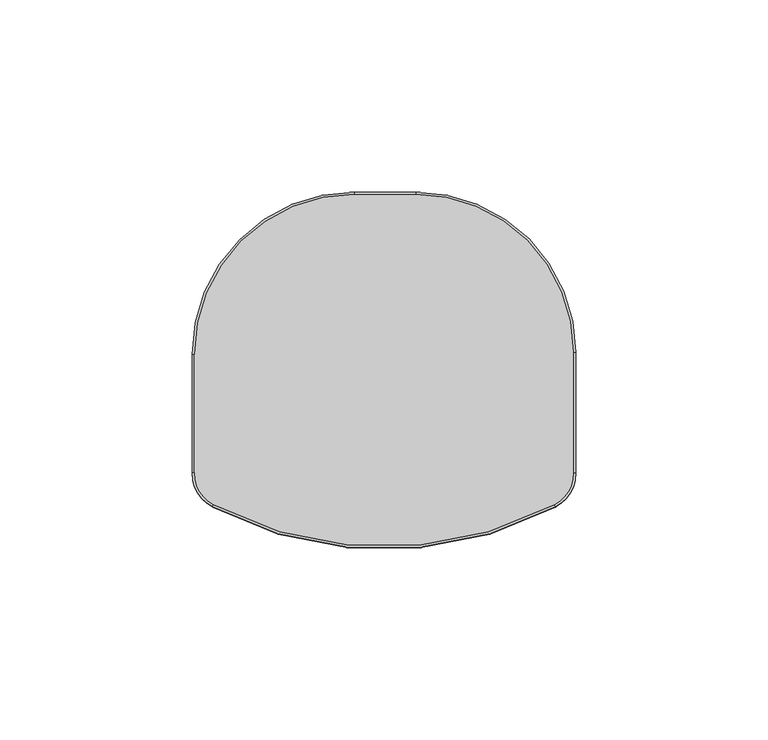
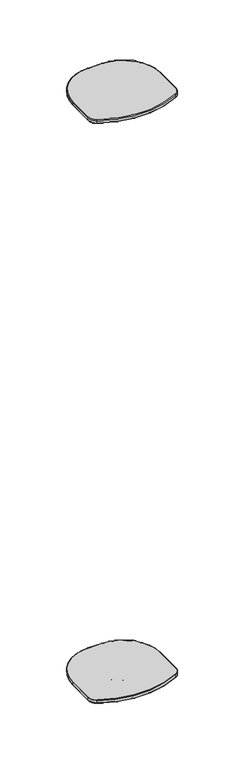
"""IFC4 building model written with IfcOpenShell, lengths in millimetres: proxy geometry, TS-C 30-700_T-EN54 : TS-C 30-700/T-EN54."""

import ifcopenshell
import ifcopenshell.guid

model = None  # the IFC model being written
_history = None  # IfcOwnerHistory: only IFC2X3 demands one
_inside = {}  # id of a spatial element -> (the spatial element, [elements in it])
_under = {}  # id of a project, library or spatial element -> (it, [spatial elements below it])
_declared = {}  # id of a project -> (the project, [libraries it declares])
_typed = {}  # id of a type object -> (the type object, [elements of that type])
_made_of = {}  # id of a material, layer set ... -> (it, [elements and type objects made of it])


def new_model(schema):
    """Start an empty IFC model of exactly this schema.

    Asked for "IFC4X3", IfcOpenShell would pick the latest addendum, in which some entities
    have other attributes; the version numbers below select the first issue.
    IFC2X3 requires an IfcOwnerHistory on every rooted entity: one is made here for all.
    """
    global model, _history
    if schema == "IFC4X3":
        model = ifcopenshell.file(schema_version=(4, 3, 0, 0))
    else:
        model = ifcopenshell.file(schema=schema)
    _inside.clear()
    _under.clear()
    _declared.clear()
    _typed.clear()
    _made_of.clear()
    _history = None
    if model.schema == "IFC2X3":
        org = make("IfcOrganization", Name="unknown")
        user = make(
            "IfcPersonAndOrganization",
            ThePerson=make("IfcPerson", FamilyName="unknown"),
            TheOrganization=org,
        )
        app = make(
            "IfcApplication",
            ApplicationDeveloper=org,
            Version="unknown",
            ApplicationFullName="unknown",
            ApplicationIdentifier="unknown",
        )
        _history = make(
            "IfcOwnerHistory",
            OwningUser=user,
            OwningApplication=app,
            ChangeAction="ADDED",
            CreationDate=0,
        )
    return model


def make(cls, **values):
    """One entity of the class cls with the attributes given. An attribute that is None is left unset."""
    return model.create_entity(
        cls, **{name: value for name, value in values.items() if value is not None}
    )


def rooted(cls, **values):
    """An entity with a GlobalId (a new one), such as an element, a storey or a relation."""
    return make(cls, GlobalId=ifcopenshell.guid.new(), OwnerHistory=_history, **values)


def si_unit(unit_type, name, prefix=None):
    """IfcSIUnit, for example si_unit("LENGTHUNIT", "METRE", prefix="MILLI")."""
    return make("IfcSIUnit", UnitType=unit_type, Prefix=prefix, Name=name)


def assignment(units):
    """IfcUnitAssignment: the units of a project."""
    return None if units is None else make("IfcUnitAssignment", Units=units)


def point(xyz):
    """IfcCartesianPoint."""
    return None if xyz is None else make("IfcCartesianPoint", Coordinates=xyz)


def direction(xyz):
    """IfcDirection."""
    return None if xyz is None else make("IfcDirection", DirectionRatios=xyz)


def frame(location, z_axis=None, x_axis=None):
    """IfcAxis2Placement3D, a coordinate frame: its origin and axes. An axis left out is left unset."""
    return make(
        "IfcAxis2Placement3D",
        Location=point(location),
        Axis=direction(z_axis),
        RefDirection=direction(x_axis),
    )


def origin():
    """The frame at (0, 0, 0) with its axes left unset."""
    return frame((0.0, 0.0, 0.0))


def place(relative_to, where):
    """IfcLocalPlacement: puts the frame where relative to a parent placement (None: the world)."""
    return make(
        "IfcLocalPlacement", PlacementRelTo=relative_to, RelativePlacement=where
    )


def context(
    kind, dimensions, precision=None, world=None, true_north=None, identifier=None
):
    """IfcGeometricRepresentationContext, for example the 3D "Model" context."""
    return make(
        "IfcGeometricRepresentationContext",
        ContextIdentifier=identifier,
        ContextType=kind,
        CoordinateSpaceDimension=dimensions,
        Precision=precision,
        WorldCoordinateSystem=world,
        TrueNorth=true_north,
    )


def project(units=None, contexts=None):
    """IfcProject with its units and contexts."""
    return rooted(
        "IfcProject",
        Name="project",
        RepresentationContexts=contexts,
        UnitsInContext=assignment(units),
    )


def spatial(cls, under=None, at=None, **own):
    """A site, building, storey or space (cls), placed at a placement, below another one or the project."""
    s = rooted(cls, ObjectPlacement=at, **own)
    if under is not None:
        _under.setdefault(under.id(), (under, []))[1].append(s)
    return s


def polyline(points):
    """IfcPolyline through the points."""
    return make("IfcPolyline", Points=[point(p) for p in points])


def circle_curve(where, radius):
    """IfcCircle in the frame where."""
    return make("IfcCircle", Position=where, Radius=radius)


def ellipse_curve(where, semi_axis1, semi_axis2):
    """IfcEllipse in the frame where."""
    return make(
        "IfcEllipse", Position=where, SemiAxis1=semi_axis1, SemiAxis2=semi_axis2
    )


def trimmed(basis, trim1, trim2, sense, master):
    """IfcTrimmedCurve: the piece of a basis curve between two trims."""
    return make(
        "IfcTrimmedCurve",
        BasisCurve=basis,
        Trim1=trim1,
        Trim2=trim2,
        SenseAgreement=sense,
        MasterRepresentation=master,
    )


def shape(context_of_items, identifier, shape_type, items):
    """IfcShapeRepresentation: the items that make up one representation, for example the "Body"."""
    return make(
        "IfcShapeRepresentation",
        ContextOfItems=context_of_items,
        RepresentationIdentifier=identifier,
        RepresentationType=shape_type,
        Items=items,
    )


def source(mapping_origin, context_of_items, identifier, shape_type, items):
    """IfcRepresentationMap: a shape defined once, which mapped items show again and again."""
    return make(
        "IfcRepresentationMap",
        MappingOrigin=mapping_origin,
        MappedRepresentation=shape(context_of_items, identifier, shape_type, items),
    )


def transform(
    local_origin,
    x_axis=None,
    y_axis=None,
    z_axis=None,
    scale=None,
    scale2=None,
    scale3=None,
    uniform=True,
):
    """IfcCartesianTransformationOperator3D, or its non-uniform kind. x_axis, y_axis, z_axis: its Axis1, 2, 3."""
    if uniform:
        return make(
            "IfcCartesianTransformationOperator3D",
            Axis1=direction(x_axis),
            Axis2=direction(y_axis),
            LocalOrigin=point(local_origin),
            Scale=scale,
            Axis3=direction(z_axis),
        )
    return make(
        "IfcCartesianTransformationOperator3DnonUniform",
        Axis1=direction(x_axis),
        Axis2=direction(y_axis),
        LocalOrigin=point(local_origin),
        Scale=scale,
        Axis3=direction(z_axis),
        Scale2=scale2,
        Scale3=scale3,
    )


def mapped(mapping_source, mapping_target):
    """IfcMappedItem: shows the shape of a source again, moved by a transform."""
    return make(
        "IfcMappedItem", MappingSource=mapping_source, MappingTarget=mapping_target
    )


def made_of(thing, what):
    """Note that an element or type object is made of a material, layer set ...; save() writes the relation."""
    if what is not None:
        _made_of.setdefault(what.id(), (what, []))[1].append(thing)
    return thing


def element(
    cls,
    number,
    at=None,
    inside=None,
    cuts=None,
    type_object=None,
    material=None,
    context=None,
    identifier="Body",
    shape_type=None,
    held_by="IfcProductDefinitionShape",
    body=None,
    shapes=None,
    **own,
):
    """One element of the class cls, such as IfcWall. Its Tag is "e" and its number.

    at: its placement. inside: the storey or other place that contains it. cuts: it is an
    opening in that element (IfcRelVoidsElement). A single representation is given by context,
    identifier, shape_type and body (its items); several are given by shapes. held_by: the class
    of the entity that holds the representations. save() writes the other relations.
    """
    e = rooted(cls, Tag="e%d" % number, ObjectPlacement=at, **own)
    if body is not None:
        shapes = [shape(context, identifier, shape_type, body)]
    if shapes is not None:
        e.Representation = make(held_by, Representations=shapes)
    if inside is not None:
        _inside.setdefault(inside.id(), (inside, []))[1].append(e)
    if cuts is not None:
        rooted(
            "IfcRelVoidsElement", RelatingBuildingElement=cuts, RelatedOpeningElement=e
        )
    if type_object is not None:
        _typed.setdefault(type_object.id(), (type_object, []))[1].append(e)
    return made_of(e, material)


def aggregate(whole, parts):
    """IfcRelAggregates: a whole, such as a stair, and the parts it consists of."""
    return rooted("IfcRelAggregates", RelatingObject=whole, RelatedObjects=parts)


def save(model, path):
    """Write the relations noted so far, then the file.

    IfcRelAggregates (storeys below a building ...), IfcRelContainedInSpatialStructure (elements
    in a storey), IfcRelDefinesByType, IfcRelAssociatesMaterial and IfcRelDeclares: one each for
    every whole, place, type object, material and project.
    """
    for whole, parts in _under.values():
        aggregate(whole, parts)
    for where, things in _inside.values():
        rooted(
            "IfcRelContainedInSpatialStructure",
            RelatedElements=things,
            RelatingStructure=where,
        )
    for kind, things in _typed.values():
        rooted("IfcRelDefinesByType", RelatedObjects=things, RelatingType=kind)
    for what, things in _made_of.values():
        rooted("IfcRelAssociatesMaterial", RelatedObjects=things, RelatingMaterial=what)
    for by, libraries in _declared.values():
        rooted("IfcRelDeclares", RelatingContext=by, RelatedDefinitions=libraries)
    model.write(path)


def plane_surface(at):
    """IfcPlane: the flat surface through the origin of the frame at, square to its z axis."""
    return make("IfcPlane", Position=at)


def cylinder_surface(at, radius):
    """IfcCylindricalSurface: all points at the distance radius from the z axis of the frame at."""
    return make("IfcCylindricalSurface", Position=at, Radius=radius)


def revolved_surface(curve, axis_point, axis_direction):
    """IfcSurfaceOfRevolution: the curve turned about the line through axis_point along axis_direction."""
    return make(
        "IfcSurfaceOfRevolution",
        SweptCurve=make("IfcArbitraryOpenProfileDef", ProfileType="CURVE", Curve=curve),
        AxisPosition=make("IfcAxis1Placement", Location=point(axis_point), Axis=direction(axis_direction)),
    )


def advanced_brep(points, edges, surfaces, faces):
    """IfcAdvancedBrep: a solid bounded by faces that lie on surfaces and meet in shared edges.

    An edge is (start, end): straight between two places in points (the first is 0);
    or (start, end, curve); or (start, end, curve, False) where it runs against its curve.
    A face is (place in surfaces, loops), or (place, loops, False) where it looks against
    its surface's normal. A loop lists edges by number (the first is 1), with a minus sign
    where the edge is run from its end to its start. The first loop is the outer one.
    """
    corners = [point(p) for p in points]
    vertices = [make("IfcVertexPoint", VertexGeometry=c) for c in corners]
    made = []
    for start, end, *more in edges:
        made.append(
            make(
                "IfcEdgeCurve",
                EdgeStart=vertices[start],
                EdgeEnd=vertices[end],
                EdgeGeometry=more[0] if more else make("IfcPolyline", Points=[corners[start], corners[end]]),
                SameSense=more[1] if len(more) > 1 else True,
            )
        )
    hull = []
    for where, loops, *sense in faces:
        bounds = []
        for j, loop in enumerate(loops):
            ring = [make("IfcOrientedEdge", EdgeElement=made[abs(k) - 1], Orientation=k > 0) for k in loop]
            bounds.append(
                make(
                    "IfcFaceOuterBound" if j == 0 else "IfcFaceBound",
                    Bound=make("IfcEdgeLoop", EdgeList=ring),
                    Orientation=True,
                )
            )
        hull.append(make("IfcAdvancedFace", Bounds=bounds, FaceSurface=surfaces[where], SameSense=sense[0] if sense else True))
    return make("IfcAdvancedBrep", Outer=make("IfcClosedShell", CfsFaces=hull))


def communication_devices_d7f1a59e(model_context):
    return source(origin(), model_context, "Body", "AdvancedBrep", [
        advanced_brep(
        [(-7.7626041, 1.5, 8.4861854), (-49.99971, -40.7371059, 8.4861854), (-49.99971, -40.7371059, 11.4421964), (-7.7626041, 1.5, 11.4421964), (8.2345894, 1.5, 11.4421964), (8.2345894, 1.5, 8.4861854), (49.99971, -40.2651206, 11.4421964), (49.99971, -40.2651206, 8.4861854), (49.99971, -71.6195776, 11.4421964), (49.99971, -71.6195776, 8.4861854), (44.6610542, -80.4667167, 11.4421964), (44.6610542, -80.4667167, 8.4861854), (-44.6609866, -80.4670578, 11.4421964), (-44.6609866, -80.4670578, 8.4861854), (-49.99971, -71.6198831, 11.4421964), (-49.99971, -71.6198831, 8.4861854), (-49.4919104, -40.7371059, 11.949996), (-49.4919104, -71.6198831, 11.949996), (-44.4242872, -80.0177986, 11.949996), (44.4243513, -80.0174593, 11.949996), (49.4919104, -71.6195776, 11.949996), (49.4919104, -40.2651206, 11.949996), (8.2345894, 0.9922004, 11.949996), (-7.7626041, 0.9922004, 11.949996), (44.4111178, -79.9923424, 7.949996), (-44.4110539, -79.9926816, 7.949996), (-49.4635206, -71.6198831, 7.949996), (-49.4635206, -40.7371059, 7.949996), (-7.7626041, 0.9638106, 7.949996), (8.2345894, 0.9638106, 7.949996), (49.4635206, -40.2651206, 7.949996), (49.4635206, -71.6195776, 7.949996)],
        [
            (0, 1, circle_curve(frame((-7.7626041, -40.7371059, 8.4861854), z_axis=(0.0, 0.0, 1.0), x_axis=(-1.0, 0.0, 0.0)), 42.2371059)),
            (1, 2),
            (2, 3, circle_curve(frame((-7.7626041, -40.7371059, 11.4421964), z_axis=(0.0, 0.0, -1.0), x_axis=(-1.0, 0.0, 0.0)), 42.2371059)),
            (3, 0),
            (3, 4),
            (4, 5),
            (5, 0),
            (4, 6, circle_curve(frame((8.2345894, -40.2651206, 11.4421964), z_axis=(0.0, 0.0, -1.0), x_axis=(0.0, 1.0, 0.0)), 41.7651206)),
            (6, 7),
            (7, 5, circle_curve(frame((8.2345894, -40.2651206, 8.4861854), z_axis=(0.0, 0.0, 1.0), x_axis=(0.0, 1.0, 0.0)), 41.7651206)),
            (6, 8),
            (8, 9),
            (9, 7),
            (8, 10, circle_curve(frame((39.99971, -71.6195776, 11.4421964), z_axis=(0.0, 0.0, -1.0), x_axis=(1.0, 0.0, 0.0)), 10.0)),
            (10, 11),
            (11, 9, circle_curve(frame((39.99971, -71.6195776, 8.4861854), z_axis=(0.0, 0.0, 1.0), x_axis=(1.0, 0.0, 0.0)), 10.0)),
            (10, 12, circle_curve(frame((-0.0002899, 4.2996317, 11.4421964), z_axis=(0.0, 0.0, -1.0), x_axis=(0.46613441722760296, -0.8847139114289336, 0.0)), 95.8121573)),
            (12, 13),
            (13, 11, circle_curve(frame((-0.0002899, 4.2996317, 8.4861854), z_axis=(0.0, 0.0, 1.0), x_axis=(0.46613441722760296, -0.8847139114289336, 0.0)), 95.8121573)),
            (12, 14, circle_curve(frame((-39.99971, -71.6198831, 11.4421964), z_axis=(0.0, 0.0, -1.0), x_axis=(-0.4661276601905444, -0.8847174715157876, 0.0)), 10.0)),
            (14, 15),
            (15, 13, circle_curve(frame((-39.99971, -71.6198831, 8.4861854), z_axis=(0.0, 0.0, 1.0), x_axis=(-0.4661276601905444, -0.8847174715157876, 0.0)), 10.0)),
            (16, 17),
            (17, 18, circle_curve(frame((-39.99971, -71.6198831, 11.949996), z_axis=(0.0, 0.0, 1.0), x_axis=(-0.4661276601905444, -0.8847174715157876, 0.0)), 9.4922004)),
            (18, 19, circle_curve(frame((-0.0002899, 4.2996317, 11.949996), z_axis=(0.0, 0.0, 1.0), x_axis=(0.46613441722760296, -0.8847139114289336, 0.0)), 95.3043576)),
            (19, 20, circle_curve(frame((39.99971, -71.6195776, 11.949996), z_axis=(0.0, 0.0, 1.0), x_axis=(1.0, 0.0, 0.0)), 9.4922004)),
            (20, 21),
            (21, 22, circle_curve(frame((8.2345894, -40.2651206, 11.949996), z_axis=(0.0, 0.0, 1.0), x_axis=(0.0, 1.0, 0.0)), 41.257321)),
            (22, 23),
            (23, 16, circle_curve(frame((-7.7626041, -40.7371059, 11.949996), z_axis=(0.0, 0.0, 1.0), x_axis=(-1.0, 0.0, 0.0)), 41.7293063)),
            (1, 15),
            (14, 2),
            (24, 25, circle_curve(frame((-0.0002899, 4.2996317, 7.949996), z_axis=(0.0, 0.0, -1.0), x_axis=(0.46613441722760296, -0.8847139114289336, 0.0)), 95.2759678)),
            (25, 26, circle_curve(frame((-39.99971, -71.6198831, 7.949996), z_axis=(0.0, 0.0, -1.0), x_axis=(-0.4661276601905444, -0.8847174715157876, 0.0)), 9.4638106)),
            (26, 27),
            (27, 28, circle_curve(frame((-7.7626041, -40.7371059, 7.949996), z_axis=(0.0, 0.0, -1.0), x_axis=(-1.0, 0.0, 0.0)), 41.7009165)),
            (28, 29),
            (29, 30, circle_curve(frame((8.2345894, -40.2651206, 7.949996), z_axis=(0.0, 0.0, -1.0), x_axis=(0.0, 1.0, 0.0)), 41.2289312)),
            (30, 31),
            (31, 24, circle_curve(frame((39.99971, -71.6195776, 7.949996), z_axis=(0.0, 0.0, -1.0), x_axis=(1.0, 0.0, 0.0)), 9.4638106)),
            (2, 16, circle_curve(frame((-49.4919104, -40.7371059, 11.4421964), z_axis=(0.0, 1.0, 0.0), x_axis=(-1.0, 0.0, 0.0)), 0.5077996)),
            (23, 3, circle_curve(frame((-7.7626041, 0.9922004, 11.4421964), z_axis=(-1.0, 0.0, 0.0), x_axis=(0.0, 1.0, 0.0)), 0.5077996)),
            (0, 28, circle_curve(frame((-7.7626041, 0.9638106, 8.4861854), z_axis=(-1.0, 0.0, 0.0), x_axis=(0.0, 1.0, 0.0)), 0.5361894)),
            (27, 1, circle_curve(frame((-49.4635206, -40.7371059, 8.4861854), z_axis=(0.0, 1.0, 0.0), x_axis=(-1.0, 0.0, 0.0)), 0.5361894)),
            (22, 4, circle_curve(frame((8.2345894, 0.9922004, 11.4421964), z_axis=(-1.0, 0.0, 0.0), x_axis=(0.0, 1.0, 0.0)), 0.5077996)),
            (5, 29, circle_curve(frame((8.2345894, 0.9638106, 8.4861854), z_axis=(-1.0, 0.0, 0.0), x_axis=(0.0, 1.0, 0.0)), 0.5361894)),
            (21, 6, circle_curve(frame((49.4919104, -40.2651206, 11.4421964), z_axis=(0.0, 1.0, 0.0), x_axis=(1.0, 0.0, 0.0)), 0.5077996)),
            (7, 30, circle_curve(frame((49.4635206, -40.2651206, 8.4861854), z_axis=(0.0, 1.0, 0.0), x_axis=(1.0, 0.0, 0.0)), 0.5361894)),
            (20, 8, circle_curve(frame((49.4919104, -71.6195776, 11.4421964), z_axis=(0.0, 1.0, 0.0), x_axis=(1.0, 0.0, 0.0)), 0.5077996)),
            (9, 31, circle_curve(frame((49.4635206, -71.6195776, 8.4861854), z_axis=(0.0, 1.0, 0.0), x_axis=(1.0, 0.0, 0.0)), 0.5361894)),
            (19, 10, circle_curve(frame((44.4243513, -80.0174593, 11.4421964), z_axis=(0.884713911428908, 0.4661344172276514, 0.0), x_axis=(0.4661344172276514, -0.884713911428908, 0.0)), 0.5077996)),
            (11, 24, circle_curve(frame((44.4111178, -79.9923424, 8.4861854), z_axis=(0.8847139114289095, 0.4661344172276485, 0.0), x_axis=(0.4661344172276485, -0.8847139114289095, 0.0)), 0.5361894)),
            (18, 12, circle_curve(frame((-44.4242872, -80.0177986, 11.4421964), z_axis=(0.8847174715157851, -0.466127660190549, 0.0), x_axis=(-0.466127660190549, -0.8847174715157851, 0.0)), 0.5077996)),
            (13, 25, circle_curve(frame((-44.4110539, -79.9926816, 8.4861854), z_axis=(0.8847174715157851, -0.466127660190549, 0.0), x_axis=(-0.466127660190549, -0.8847174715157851, 0.0)), 0.5361894)),
            (17, 14, circle_curve(frame((-49.4919104, -71.6198831, 11.4421964), z_axis=(0.0, -1.0, 0.0), x_axis=(-1.0, 0.0, 0.0)), 0.5077996)),
            (15, 26, circle_curve(frame((-49.4635206, -71.6198831, 8.4861854), z_axis=(0.0, -1.0, 0.0), x_axis=(-1.0, 0.0, 0.0)), 0.5361894)),
        ],
        [
            cylinder_surface(frame((-7.7626041, -40.7371059, 0.0), z_axis=(0.0, 0.0, -1.0), x_axis=(-1.0, 0.0, 0.0)), 42.2371059),
            plane_surface(frame((-7.7626041, 1.5, 11.4421964), z_axis=(0.0, 1.0, 0.0), x_axis=(1.0, 0.0, 0.0))),
            cylinder_surface(frame((8.2345894, -40.2651206, 0.0), z_axis=(0.0, 0.0, -1.0), x_axis=(0.0, 1.0, 0.0)), 41.7651206),
            plane_surface(frame((49.99971, -40.2651206, 11.4421964), z_axis=(1.0, 0.0, 0.0), x_axis=(0.0, -1.0, 0.0))),
            cylinder_surface(frame((39.99971, -71.6195776, 0.0), z_axis=(0.0, 0.0, -1.0), x_axis=(1.0, 0.0, 0.0)), 10.0),
            cylinder_surface(frame((-0.0002899, 4.2996317, 0.0), z_axis=(0.0, 0.0, -1.0), x_axis=(0.46613441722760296, -0.8847139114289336, 0.0)), 95.8121573),
            cylinder_surface(frame((-39.99971, -71.6198831, 0.0), z_axis=(0.0, 0.0, -1.0), x_axis=(-0.4661276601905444, -0.8847174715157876, 0.0)), 10.0),
            plane_surface(frame((-48.0983774, -71.6198831, 11.949996), z_axis=(0.0, 0.0, 1.0), x_axis=(0.0, 1.0, 0.0))),
            plane_surface(frame((-49.99971, -71.6198831, 11.4421964), z_axis=(-1.0, 0.0, 0.0), x_axis=(0.0, 1.0, 0.0))),
            plane_surface(frame((-49.4635206, -71.6198831, 7.949996), z_axis=(0.0, 0.0, -1.0), x_axis=(0.0, 1.0, 0.0))),
            revolved_surface(trimmed(ellipse_curve(frame((-49.4919104, -40.7371059, 11.4421964), z_axis=(0.0, -1.0, 0.0), x_axis=(-1.0, 0.0, 0.0)), 0.5077996, 0.5077996), [point((-49.4919104, -40.7371059, 11.949996))], [point((-49.99971, -40.7371059, 11.4421964))], True, "CARTESIAN"), (-7.7626041, -40.7371059, 0.0), (0.0, 0.0, -1.0)),
            revolved_surface(trimmed(ellipse_curve(frame((-49.4635206, -40.7371059, 8.4861854), z_axis=(0.0, -1.0, 0.0), x_axis=(-1.0, 0.0, 0.0)), 0.5361894, 0.5361894), [point((-49.99971, -40.7371059, 8.4861854))], [point((-49.4635206, -40.7371059, 7.949996))], True, "CARTESIAN"), (-7.7626041, -40.7371059, 0.0), (0.0, 0.0, -1.0)),
            cylinder_surface(frame((-7.7626041, 0.9922004, 11.4421964), z_axis=(-1.0, 0.0, 0.0), x_axis=(0.0, 1.0, 0.0)), 0.5077996),
            cylinder_surface(frame((-7.7626041, 0.9638106, 8.4861854), z_axis=(-1.0, 0.0, 0.0), x_axis=(0.0, 1.0, 0.0)), 0.5361894),
            revolved_surface(trimmed(ellipse_curve(frame((8.2345894, 0.9922004, 11.4421964), z_axis=(-1.0, 0.0, 0.0), x_axis=(0.0, 1.0, 0.0)), 0.5077996, 0.5077996), [point((8.2345894, 0.9922004, 11.949996))], [point((8.2345894, 1.5, 11.4421964))], True, "CARTESIAN"), (8.2345894, -40.2651206, 0.0), (0.0, 0.0, -1.0)),
            revolved_surface(trimmed(ellipse_curve(frame((8.2345894, 0.9638106, 8.4861854), z_axis=(-1.0, 0.0, 0.0), x_axis=(0.0, 1.0, 0.0)), 0.5361894, 0.5361894), [point((8.2345894, 1.5, 8.4861854))], [point((8.2345894, 0.9638106, 7.949996))], True, "CARTESIAN"), (8.2345894, -40.2651206, 0.0), (0.0, 0.0, -1.0)),
            cylinder_surface(frame((49.4919104, -40.2651206, 11.4421964), z_axis=(0.0, 1.0, 0.0), x_axis=(1.0, 0.0, 0.0)), 0.5077996),
            cylinder_surface(frame((49.4635206, -40.2651206, 8.4861854), z_axis=(0.0, 1.0, 0.0), x_axis=(1.0, 0.0, 0.0)), 0.5361894),
            revolved_surface(trimmed(ellipse_curve(frame((49.4919104, -71.6195776, 11.4421964), z_axis=(0.0, 1.0, 0.0), x_axis=(1.0, 0.0, 0.0)), 0.5077996, 0.5077996), [point((49.4919104, -71.6195776, 11.949996))], [point((49.99971, -71.6195776, 11.4421964))], True, "CARTESIAN"), (39.99971, -71.6195776, 0.0), (0.0, 0.0, -1.0)),
            revolved_surface(trimmed(ellipse_curve(frame((49.4635206, -71.6195776, 8.4861854), z_axis=(0.0, 1.0, 0.0), x_axis=(1.0, 0.0, 0.0)), 0.5361894, 0.5361894), [point((49.99971, -71.6195776, 8.4861854))], [point((49.4635206, -71.6195776, 7.949996))], True, "CARTESIAN"), (39.99971, -71.6195776, 0.0), (0.0, 0.0, -1.0)),
            revolved_surface(trimmed(ellipse_curve(frame((44.4243513, -80.0174593, 11.4421964), z_axis=(0.8847139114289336, 0.46613441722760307, 0.0), x_axis=(0.46613441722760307, -0.8847139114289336, 0.0)), 0.5077996, 0.5077996), [point((44.4243513, -80.0174593, 11.949996))], [point((44.6610542, -80.4667167, 11.4421964))], True, "CARTESIAN"), (-0.0002899, 4.2996317, 0.0), (0.0, 0.0, -1.0)),
            revolved_surface(trimmed(ellipse_curve(frame((44.4111178, -79.9923424, 8.4861854), z_axis=(0.8847139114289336, 0.46613441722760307, 0.0), x_axis=(0.46613441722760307, -0.8847139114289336, 0.0)), 0.5361894, 0.5361894), [point((44.6610542, -80.4667167, 8.4861854))], [point((44.4111178, -79.9923424, 7.949996))], True, "CARTESIAN"), (-0.0002899, 4.2996317, 0.0), (0.0, 0.0, -1.0)),
            revolved_surface(trimmed(ellipse_curve(frame((-44.4242872, -80.0177986, 11.4421964), z_axis=(0.8847174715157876, -0.46612766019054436, 0.0), x_axis=(-0.46612766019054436, -0.8847174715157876, 0.0)), 0.5077996, 0.5077996), [point((-44.4242872, -80.0177986, 11.949996))], [point((-44.6609866, -80.4670578, 11.4421964))], True, "CARTESIAN"), (-39.99971, -71.6198831, 0.0), (0.0, 0.0, -1.0)),
            revolved_surface(trimmed(ellipse_curve(frame((-44.4110539, -79.9926816, 8.4861854), z_axis=(0.8847174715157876, -0.46612766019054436, 0.0), x_axis=(-0.46612766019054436, -0.8847174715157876, 0.0)), 0.5361894, 0.5361894), [point((-44.6609866, -80.4670578, 8.4861854))], [point((-44.4110539, -79.9926816, 7.949996))], True, "CARTESIAN"), (-39.99971, -71.6198831, 0.0), (0.0, 0.0, -1.0)),
            cylinder_surface(frame((-49.4919104, -71.6198831, 11.4421964), z_axis=(0.0, -1.0, 0.0), x_axis=(-1.0, 0.0, 0.0)), 0.5077996),
            cylinder_surface(frame((-49.4635206, -71.6198831, 8.4861854), z_axis=(0.0, -1.0, 0.0), x_axis=(-1.0, 0.0, 0.0)), 0.5361894),
        ],
        [
            (0, [[1, 2, 3, 4]]),
            (1, [[-4, 5, 6, 7]]),
            (2, [[-6, 8, 9, 10]]),
            (3, [[-9, 11, 12, 13]]),
            (4, [[-12, 14, 15, 16]]),
            (5, [[-15, 17, 18, 19]]),
            (6, [[-18, 20, 21, 22]]),
            (7, [[23, 24, 25, 26, 27, 28, 29, 30]]),
            (8, [[-2, 31, -21, 32]]),
            (9, [[33, 34, 35, 36, 37, 38, 39, 40]]),
            (10, [[-3, 41, -30, 42]]),
            (11, [[-1, 43, -36, 44]]),
            (12, [[-5, -42, -29, 45]]),
            (13, [[-7, 46, -37, -43]]),
            (14, [[-8, -45, -28, 47]]),
            (15, [[-10, 48, -38, -46]]),
            (16, [[-11, -47, -27, 49]]),
            (17, [[-13, 50, -39, -48]]),
            (18, [[-14, -49, -26, 51]]),
            (19, [[-16, 52, -40, -50]]),
            (20, [[-17, -51, -25, 53]]),
            (21, [[-19, 54, -33, -52]]),
            (22, [[-20, -53, -24, 55]]),
            (23, [[-22, 56, -34, -54]]),
            (24, [[-23, -41, -32, -55]]),
            (25, [[-31, -44, -35, -56]]),
        ],
    ),
        advanced_brep(
        [(-7.7626041, 1.5, 705.6021766), (-49.99971, -40.7371059, 705.6021766), (-49.4635206, -40.7371059, 706.138366), (-7.7626041, 0.9638106, 706.138366), (-7.7626041, 1.5, 702.6461656), (-49.99971, -40.7371059, 702.6461656), (-7.7626041, 0.9922004, 702.138366), (-49.4919104, -40.7371059, 702.138366), (8.2345894, 0.9638106, 706.138366), (8.2345894, 1.5, 705.6021766), (8.2345894, 1.5, 702.6461656), (8.2345894, 0.9922004, 702.138366), (49.4635206, -40.2651206, 706.138366), (49.99971, -40.2651206, 705.6021766), (49.99971, -40.2651206, 702.6461656), (49.4919104, -40.2651206, 702.138366), (49.4635206, -71.6195776, 706.138366), (49.99971, -71.6195776, 705.6021766), (49.99971, -71.6195776, 702.6461656), (49.4919104, -71.6195776, 702.138366), (44.4111178, -79.9923424, 706.138366), (44.6610542, -80.4667167, 705.6021766), (44.6610542, -80.4667167, 702.6461656), (44.4243513, -80.0174593, 702.138366), (-44.4110539, -79.9926816, 706.138366), (-44.6609866, -80.4670578, 705.6021766), (-44.6609866, -80.4670578, 702.6461656), (-44.4242872, -80.0177986, 702.138366), (-49.4635206, -71.6198831, 706.138366), (-49.99971, -71.6198831, 705.6021766), (-49.99971, -71.6198831, 702.6461656), (-49.4919104, -71.6198831, 702.138366)],
        [
            (0, 1, circle_curve(frame((-7.7626041, -40.7371059, 705.6021766), z_axis=(0.0, 0.0, 1.0), x_axis=(-1.0, 0.0, 0.0)), 42.2371059)),
            (1, 2, circle_curve(frame((-49.4635206, -40.7371059, 705.6021766), z_axis=(0.0, 1.0, 0.0), x_axis=(-1.0, 0.0, 0.0)), 0.5361894)),
            (2, 3, circle_curve(frame((-7.7626041, -40.7371059, 706.138366), z_axis=(0.0, 0.0, -1.0), x_axis=(-1.0, 0.0, 0.0)), 41.7009165)),
            (3, 0, circle_curve(frame((-7.7626041, 0.9638106, 705.6021766), z_axis=(-1.0, 0.0, 0.0), x_axis=(0.0, 1.0, 0.0)), 0.5361894)),
            (0, 4),
            (4, 5, circle_curve(frame((-7.7626041, -40.7371059, 702.6461656), z_axis=(0.0, 0.0, 1.0), x_axis=(-1.0, 0.0, 0.0)), 42.2371059)),
            (5, 1),
            (4, 6, circle_curve(frame((-7.7626041, 0.9922004, 702.6461656), z_axis=(-1.0, 0.0, 0.0), x_axis=(0.0, 1.0, 0.0)), 0.5077996)),
            (6, 7, circle_curve(frame((-7.7626041, -40.7371059, 702.138366), z_axis=(0.0, 0.0, 1.0), x_axis=(-1.0, 0.0, 0.0)), 41.7293063)),
            (7, 5, circle_curve(frame((-49.4919104, -40.7371059, 702.6461656), z_axis=(0.0, 1.0, 0.0), x_axis=(-1.0, 0.0, 0.0)), 0.5077996)),
            (3, 8),
            (8, 9, circle_curve(frame((8.2345894, 0.9638106, 705.6021766), z_axis=(-1.0, 0.0, 0.0), x_axis=(0.0, 1.0, 0.0)), 0.5361894)),
            (9, 0),
            (9, 10),
            (10, 4),
            (10, 11, circle_curve(frame((8.2345894, 0.9922004, 702.6461656), z_axis=(-1.0, 0.0, 0.0), x_axis=(0.0, 1.0, 0.0)), 0.5077996)),
            (11, 6),
            (8, 12, circle_curve(frame((8.2345894, -40.2651206, 706.138366), z_axis=(0.0, 0.0, -1.0), x_axis=(0.0, 1.0, 0.0)), 41.2289312)),
            (12, 13, circle_curve(frame((49.4635206, -40.2651206, 705.6021766), z_axis=(0.0, 1.0, 0.0), x_axis=(1.0, 0.0, 0.0)), 0.5361894)),
            (13, 9, circle_curve(frame((8.2345894, -40.2651206, 705.6021766), z_axis=(0.0, 0.0, 1.0), x_axis=(0.0, 1.0, 0.0)), 41.7651206)),
            (13, 14),
            (14, 10, circle_curve(frame((8.2345894, -40.2651206, 702.6461656), z_axis=(0.0, 0.0, 1.0), x_axis=(0.0, 1.0, 0.0)), 41.7651206)),
            (14, 15, circle_curve(frame((49.4919104, -40.2651206, 702.6461656), z_axis=(0.0, 1.0, 0.0), x_axis=(1.0, 0.0, 0.0)), 0.5077996)),
            (15, 11, circle_curve(frame((8.2345894, -40.2651206, 702.138366), z_axis=(0.0, 0.0, 1.0), x_axis=(0.0, 1.0, 0.0)), 41.257321)),
            (12, 16),
            (16, 17, circle_curve(frame((49.4635206, -71.6195776, 705.6021766), z_axis=(0.0, 1.0, 0.0), x_axis=(1.0, 0.0, 0.0)), 0.5361894)),
            (17, 13),
            (17, 18),
            (18, 14),
            (18, 19, circle_curve(frame((49.4919104, -71.6195776, 702.6461656), z_axis=(0.0, 1.0, 0.0), x_axis=(1.0, 0.0, 0.0)), 0.5077996)),
            (19, 15),
            (16, 20, circle_curve(frame((39.99971, -71.6195776, 706.138366), z_axis=(0.0, 0.0, -1.0), x_axis=(1.0, 0.0, 0.0)), 9.4638106)),
            (20, 21, circle_curve(frame((44.4111178, -79.9923424, 705.6021766), z_axis=(0.884713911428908, 0.4661344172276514, 0.0), x_axis=(0.4661344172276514, -0.884713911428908, 0.0)), 0.5361894)),
            (21, 17, circle_curve(frame((39.99971, -71.6195776, 705.6021766), z_axis=(0.0, 0.0, 1.0), x_axis=(1.0, 0.0, 0.0)), 10.0)),
            (21, 22),
            (22, 18, circle_curve(frame((39.99971, -71.6195776, 702.6461656), z_axis=(0.0, 0.0, 1.0), x_axis=(1.0, 0.0, 0.0)), 10.0)),
            (22, 23, circle_curve(frame((44.4243513, -80.0174593, 702.6461656), z_axis=(0.8847139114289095, 0.4661344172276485, 0.0), x_axis=(0.4661344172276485, -0.8847139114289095, 0.0)), 0.5077996)),
            (23, 19, circle_curve(frame((39.99971, -71.6195776, 702.138366), z_axis=(0.0, 0.0, 1.0), x_axis=(1.0, 0.0, 0.0)), 9.4922004)),
            (20, 24, circle_curve(frame((-0.0002899, 4.2996317, 706.138366), z_axis=(0.0, 0.0, -1.0), x_axis=(0.46613441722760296, -0.8847139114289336, 0.0)), 95.2759678)),
            (24, 25, circle_curve(frame((-44.4110539, -79.9926816, 705.6021766), z_axis=(0.8847174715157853, -0.46612766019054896, 0.0), x_axis=(-0.46612766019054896, -0.8847174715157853, 0.0)), 0.5361894)),
            (25, 21, circle_curve(frame((-0.0002899, 4.2996317, 705.6021766), z_axis=(0.0, 0.0, 1.0), x_axis=(0.46613441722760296, -0.8847139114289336, 0.0)), 95.8121573)),
            (25, 26),
            (26, 22, circle_curve(frame((-0.0002899, 4.2996317, 702.6461656), z_axis=(0.0, 0.0, 1.0), x_axis=(0.46613441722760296, -0.8847139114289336, 0.0)), 95.8121573)),
            (26, 27, circle_curve(frame((-44.4242872, -80.0177986, 702.6461656), z_axis=(0.8847174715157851, -0.466127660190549, 0.0), x_axis=(-0.466127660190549, -0.8847174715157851, 0.0)), 0.5077996)),
            (27, 23, circle_curve(frame((-0.0002899, 4.2996317, 702.138366), z_axis=(0.0, 0.0, 1.0), x_axis=(0.46613441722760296, -0.8847139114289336, 0.0)), 95.3043576)),
            (24, 28, circle_curve(frame((-39.99971, -71.6198831, 706.138366), z_axis=(0.0, 0.0, -1.0), x_axis=(-0.4661276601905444, -0.8847174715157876, 0.0)), 9.4638106)),
            (28, 29, circle_curve(frame((-49.4635206, -71.6198831, 705.6021766), z_axis=(0.0, -1.0, 0.0), x_axis=(-1.0, 0.0, 0.0)), 0.5361894)),
            (29, 25, circle_curve(frame((-39.99971, -71.6198831, 705.6021766), z_axis=(0.0, 0.0, 1.0), x_axis=(-0.4661276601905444, -0.8847174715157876, 0.0)), 10.0)),
            (29, 30),
            (30, 26, circle_curve(frame((-39.99971, -71.6198831, 702.6461656), z_axis=(0.0, 0.0, 1.0), x_axis=(-0.4661276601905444, -0.8847174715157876, 0.0)), 10.0)),
            (30, 31, circle_curve(frame((-49.4919104, -71.6198831, 702.6461656), z_axis=(0.0, -1.0, 0.0), x_axis=(-1.0, 0.0, 0.0)), 0.5077996)),
            (31, 27, circle_curve(frame((-39.99971, -71.6198831, 702.138366), z_axis=(0.0, 0.0, 1.0), x_axis=(-0.4661276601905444, -0.8847174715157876, 0.0)), 9.4922004)),
            (2, 28),
            (1, 29),
            (5, 30),
            (7, 31),
        ],
        [
            revolved_surface(trimmed(ellipse_curve(frame((-49.4635206, -40.7371059, 705.6021766), z_axis=(0.0, -1.0, 0.0), x_axis=(-1.0, 0.0, 0.0)), 0.5361894, 0.5361894), [point((-49.4635206, -40.7371059, 706.138366))], [point((-49.99971, -40.7371059, 705.6021766))], True, "CARTESIAN"), (-7.7626041, -40.7371059, 0.0), (0.0, 0.0, -1.0)),
            cylinder_surface(frame((-7.7626041, -40.7371059, 0.0), z_axis=(0.0, 0.0, -1.0), x_axis=(-1.0, 0.0, 0.0)), 42.2371059),
            revolved_surface(trimmed(ellipse_curve(frame((-49.4919104, -40.7371059, 702.6461656), z_axis=(0.0, -1.0, 0.0), x_axis=(-1.0, 0.0, 0.0)), 0.5077996, 0.5077996), [point((-49.99971, -40.7371059, 702.6461656))], [point((-49.4919104, -40.7371059, 702.138366))], True, "CARTESIAN"), (-7.7626041, -40.7371059, 0.0), (0.0, 0.0, -1.0)),
            cylinder_surface(frame((-7.7626041, 0.9638106, 705.6021766), z_axis=(-1.0, 0.0, 0.0), x_axis=(0.0, 1.0, 0.0)), 0.5361894),
            plane_surface(frame((-7.7626041, 1.5, 705.6021766), z_axis=(0.0, 1.0, 0.0), x_axis=(1.0, 0.0, 0.0))),
            cylinder_surface(frame((-7.7626041, 0.9922004, 702.6461656), z_axis=(-1.0, 0.0, 0.0), x_axis=(0.0, 1.0, 0.0)), 0.5077996),
            revolved_surface(trimmed(ellipse_curve(frame((8.2345894, 0.9638106, 705.6021766), z_axis=(-1.0, 0.0, 0.0), x_axis=(0.0, 1.0, 0.0)), 0.5361894, 0.5361894), [point((8.2345894, 0.9638106, 706.138366))], [point((8.2345894, 1.5, 705.6021766))], True, "CARTESIAN"), (8.2345894, -40.2651206, 0.0), (0.0, 0.0, -1.0)),
            cylinder_surface(frame((8.2345894, -40.2651206, 0.0), z_axis=(0.0, 0.0, -1.0), x_axis=(0.0, 1.0, 0.0)), 41.7651206),
            revolved_surface(trimmed(ellipse_curve(frame((8.2345894, 0.9922004, 702.6461656), z_axis=(-1.0, 0.0, 0.0), x_axis=(0.0, 1.0, 0.0)), 0.5077996, 0.5077996), [point((8.2345894, 1.5, 702.6461656))], [point((8.2345894, 0.9922004, 702.138366))], True, "CARTESIAN"), (8.2345894, -40.2651206, 0.0), (0.0, 0.0, -1.0)),
            cylinder_surface(frame((49.4635206, -40.2651206, 705.6021766), z_axis=(0.0, 1.0, 0.0), x_axis=(1.0, 0.0, 0.0)), 0.5361894),
            plane_surface(frame((49.99971, -40.2651206, 705.6021766), z_axis=(1.0, 0.0, 0.0), x_axis=(0.0, -1.0, 0.0))),
            cylinder_surface(frame((49.4919104, -40.2651206, 702.6461656), z_axis=(0.0, 1.0, 0.0), x_axis=(1.0, 0.0, 0.0)), 0.5077996),
            revolved_surface(trimmed(ellipse_curve(frame((49.4635206, -71.6195776, 705.6021766), z_axis=(0.0, 1.0, 0.0), x_axis=(1.0, 0.0, 0.0)), 0.5361894, 0.5361894), [point((49.4635206, -71.6195776, 706.138366))], [point((49.99971, -71.6195776, 705.6021766))], True, "CARTESIAN"), (39.99971, -71.6195776, 0.0), (0.0, 0.0, -1.0)),
            cylinder_surface(frame((39.99971, -71.6195776, 0.0), z_axis=(0.0, 0.0, -1.0), x_axis=(1.0, 0.0, 0.0)), 10.0),
            revolved_surface(trimmed(ellipse_curve(frame((49.4919104, -71.6195776, 702.6461656), z_axis=(0.0, 1.0, 0.0), x_axis=(1.0, 0.0, 0.0)), 0.5077996, 0.5077996), [point((49.99971, -71.6195776, 702.6461656))], [point((49.4919104, -71.6195776, 702.138366))], True, "CARTESIAN"), (39.99971, -71.6195776, 0.0), (0.0, 0.0, -1.0)),
            revolved_surface(trimmed(ellipse_curve(frame((44.4111178, -79.9923424, 705.6021766), z_axis=(0.8847139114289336, 0.46613441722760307, 0.0), x_axis=(0.46613441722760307, -0.8847139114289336, 0.0)), 0.5361894, 0.5361894), [point((44.4111178, -79.9923424, 706.138366))], [point((44.6610542, -80.4667167, 705.6021766))], True, "CARTESIAN"), (-0.0002899, 4.2996317, 0.0), (0.0, 0.0, -1.0)),
            cylinder_surface(frame((-0.0002899, 4.2996317, 0.0), z_axis=(0.0, 0.0, -1.0), x_axis=(0.46613441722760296, -0.8847139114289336, 0.0)), 95.8121573),
            revolved_surface(trimmed(ellipse_curve(frame((44.4243513, -80.0174593, 702.6461656), z_axis=(0.8847139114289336, 0.46613441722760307, 0.0), x_axis=(0.46613441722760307, -0.8847139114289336, 0.0)), 0.5077996, 0.5077996), [point((44.6610542, -80.4667167, 702.6461656))], [point((44.4243513, -80.0174593, 702.138366))], True, "CARTESIAN"), (-0.0002899, 4.2996317, 0.0), (0.0, 0.0, -1.0)),
            revolved_surface(trimmed(ellipse_curve(frame((-44.4110539, -79.9926816, 705.6021766), z_axis=(0.8847174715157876, -0.46612766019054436, 0.0), x_axis=(-0.46612766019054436, -0.8847174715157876, 0.0)), 0.5361894, 0.5361894), [point((-44.4110539, -79.9926816, 706.138366))], [point((-44.6609866, -80.4670578, 705.6021766))], True, "CARTESIAN"), (-39.99971, -71.6198831, 0.0), (0.0, 0.0, -1.0)),
            cylinder_surface(frame((-39.99971, -71.6198831, 0.0), z_axis=(0.0, 0.0, -1.0), x_axis=(-0.4661276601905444, -0.8847174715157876, 0.0)), 10.0),
            revolved_surface(trimmed(ellipse_curve(frame((-44.4242872, -80.0177986, 702.6461656), z_axis=(0.8847174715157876, -0.46612766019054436, 0.0), x_axis=(-0.46612766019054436, -0.8847174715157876, 0.0)), 0.5077996, 0.5077996), [point((-44.6609866, -80.4670578, 702.6461656))], [point((-44.4242872, -80.0177986, 702.138366))], True, "CARTESIAN"), (-39.99971, -71.6198831, 0.0), (0.0, 0.0, -1.0)),
            plane_surface(frame((-48.0983774, -71.6198831, 706.138366), z_axis=(0.0, 0.0, 1.0), x_axis=(0.0, 1.0, 0.0))),
            cylinder_surface(frame((-49.4635206, -71.6198831, 705.6021766), z_axis=(0.0, -1.0, 0.0), x_axis=(-1.0, 0.0, 0.0)), 0.5361894),
            plane_surface(frame((-49.99971, -71.6198831, 705.6021766), z_axis=(-1.0, 0.0, 0.0), x_axis=(0.0, 1.0, 0.0))),
            cylinder_surface(frame((-49.4919104, -71.6198831, 702.6461656), z_axis=(0.0, -1.0, 0.0), x_axis=(-1.0, 0.0, 0.0)), 0.5077996),
            plane_surface(frame((-49.4919104, -71.6198831, 702.138366), z_axis=(0.0, 0.0, -1.0), x_axis=(0.0, 1.0, 0.0))),
        ],
        [
            (0, [[1, 2, 3, 4]]),
            (1, [[-1, 5, 6, 7]]),
            (2, [[-6, 8, 9, 10]]),
            (3, [[-4, 11, 12, 13]]),
            (4, [[-5, -13, 14, 15]]),
            (5, [[-8, -15, 16, 17]]),
            (6, [[-12, 18, 19, 20]]),
            (7, [[-14, -20, 21, 22]]),
            (8, [[-16, -22, 23, 24]]),
            (9, [[-19, 25, 26, 27]]),
            (10, [[-21, -27, 28, 29]]),
            (11, [[-23, -29, 30, 31]]),
            (12, [[-26, 32, 33, 34]]),
            (13, [[-28, -34, 35, 36]]),
            (14, [[-30, -36, 37, 38]]),
            (15, [[-33, 39, 40, 41]]),
            (16, [[-35, -41, 42, 43]]),
            (17, [[-37, -43, 44, 45]]),
            (18, [[-40, 46, 47, 48]]),
            (19, [[-42, -48, 49, 50]]),
            (20, [[-44, -50, 51, 52]]),
            (21, [[-3, 53, -46, -39, -32, -25, -18, -11]]),
            (22, [[-2, 54, -47, -53]]),
            (23, [[-7, 55, -49, -54]]),
            (24, [[-10, 56, -51, -55]]),
            (25, [[-9, -17, -24, -31, -38, -45, -52, -56]]),
        ],
    ),
        advanced_brep(
        [(8.2401398, -42.96875, 7.949996), (-8.2401398, -42.96875, 7.949996), (0.0, -42.96875, 7.949996), (8.2401398, -42.96875, 6.851348), (-8.2401398, -42.96875, 6.851348), (8.0745091, -42.96875, 6.0844144), (-8.0745091, -42.96875, 6.0844144), (7.6798654, -42.96875, 5.2133531), (-7.6798654, -42.96875, 5.2133531), (7.4956938, -42.96875, 4.3605677), (-7.4956938, -42.96875, 4.3605677), (7.4956938, -42.96875, 1.1570894), (-7.4956938, -42.96875, 1.1570894), (6.3386044, -42.96875, 0.0), (-6.3386044, -42.96875, 0.0), (0.0, -42.96875, 0.0)],
        [
            (0, 1, circle_curve(frame((0.0, -42.96875, 7.949996), z_axis=(0.0, 0.0, 1.0), x_axis=(-1.0, 0.0, 0.0)), 8.2401398)),
            (1, 2),
            (2, 0),
            (1, 0, circle_curve(frame((0.0, -42.96875, 7.949996), z_axis=(0.0, 0.0, 1.0), x_axis=(-1.0, 0.0, 0.0)), 8.2401398)),
            (3, 4, circle_curve(frame((0.0, -42.96875, 6.851348), z_axis=(0.0, 0.0, 1.0), x_axis=(-1.0, 0.0, 0.0)), 8.2401398)),
            (4, 1),
            (0, 3),
            (4, 3, circle_curve(frame((0.0, -42.96875, 6.851348), z_axis=(0.0, 0.0, 1.0), x_axis=(-1.0, 0.0, 0.0)), 8.2401398)),
            (5, 6, circle_curve(frame((0.0, -42.96875, 6.0844144), z_axis=(0.0, 0.0, 1.0), x_axis=(-1.0, 0.0, 0.0)), 8.0745091)),
            (6, 4, circle_curve(frame((-6.3817258, -42.96875, 6.851348), z_axis=(0.0, 1.0, 0.0), x_axis=(1.0, 0.0, 0.0)), 1.858414)),
            (3, 5, circle_curve(frame((6.3817258, -42.96875, 6.851348), z_axis=(0.0, 1.0, 0.0), x_axis=(-1.0, 0.0, 0.0)), 1.858414)),
            (6, 5, circle_curve(frame((0.0, -42.96875, 6.0844144), z_axis=(0.0, 0.0, 1.0), x_axis=(-1.0, 0.0, 0.0)), 8.0745091)),
            (7, 8, circle_curve(frame((0.0, -42.96875, 5.2133531), z_axis=(0.0, 0.0, 1.0), x_axis=(-1.0, 0.0, 0.0)), 7.6798654)),
            (8, 6),
            (5, 7),
            (8, 7, circle_curve(frame((0.0, -42.96875, 5.2133531), z_axis=(0.0, 0.0, 1.0), x_axis=(-1.0, 0.0, 0.0)), 7.6798654)),
            (9, 10, circle_curve(frame((0.0, -42.96875, 4.3605677), z_axis=(0.0, 0.0, 1.0), x_axis=(-1.0, 0.0, 0.0)), 7.4956938)),
            (10, 8, circle_curve(frame((-9.5621413, -42.96875, 4.3605677), z_axis=(0.0, -1.0, 0.0), x_axis=(1.0, 0.0, 0.0)), 2.0664475)),
            (7, 9, circle_curve(frame((9.5621413, -42.96875, 4.3605677), z_axis=(0.0, -1.0, 0.0), x_axis=(-1.0, 0.0, 0.0)), 2.0664475)),
            (10, 9, circle_curve(frame((0.0, -42.96875, 4.3605677), z_axis=(0.0, 0.0, 1.0), x_axis=(-1.0, 0.0, 0.0)), 7.4956938)),
            (11, 12, circle_curve(frame((0.0, -42.96875, 1.1570894), z_axis=(0.0, 0.0, 1.0), x_axis=(-1.0, 0.0, 0.0)), 7.4956938)),
            (12, 10),
            (9, 11),
            (12, 11, circle_curve(frame((0.0, -42.96875, 1.1570894), z_axis=(0.0, 0.0, 1.0), x_axis=(-1.0, 0.0, 0.0)), 7.4956938)),
            (13, 14, circle_curve(frame((0.0, -42.96875, 0.0), z_axis=(0.0, 0.0, 1.0), x_axis=(-1.0, 0.0, 0.0)), 6.3386044)),
            (14, 12, circle_curve(frame((-6.3386044, -42.96875, 1.1570894), z_axis=(0.0, 1.0, 0.0), x_axis=(1.0, 0.0, 0.0)), 1.1570894)),
            (11, 13, circle_curve(frame((6.3386044, -42.96875, 1.1570894), z_axis=(0.0, 1.0, 0.0), x_axis=(-1.0, 0.0, 0.0)), 1.1570894)),
            (14, 13, circle_curve(frame((0.0, -42.96875, 0.0), z_axis=(0.0, 0.0, 1.0), x_axis=(-1.0, 0.0, 0.0)), 6.3386044)),
            (15, 14),
            (13, 15),
        ],
        [
            plane_surface(frame((0.0, -42.96875, 7.949996), z_axis=(0.0, 0.0, 1.0), x_axis=(-1.0, 0.0, 0.0))),
            cylinder_surface(frame((0.0, -42.96875, 6.8507462), z_axis=(0.0, 0.0, -1.0), x_axis=(-1.0, 0.0, 0.0)), 8.2401398),
            revolved_surface(trimmed(ellipse_curve(frame((-6.3817258, -42.96875, 6.851348), z_axis=(0.0, -1.0, 0.0), x_axis=(1.0, 0.0, 0.0)), 1.858414, 1.858414), [point((-8.2401398, -42.96875, 6.851348))], [point((-8.0745091, -42.96875, 6.0844144))], True, "CARTESIAN"), (0.0, -42.96875, 6.8507462), (0.0, 0.0, -1.0)),
            revolved_surface(polyline([(-8.0745091, -42.96875, 6.0844144), (-7.6798654, -42.96875, 5.2133531)]), (0.0, -42.96875, 6.8507462), (0.0, 0.0, -1.0)),
            revolved_surface(trimmed(ellipse_curve(frame((-9.5621413, -42.96875, 4.3605677), z_axis=(0.0, 1.0, 0.0), x_axis=(1.0, 0.0, 0.0)), 2.0664475, 2.0664475), [point((-7.6798654, -42.96875, 5.2133531))], [point((-7.4956938, -42.96875, 4.3605677))], True, "CARTESIAN"), (0.0, -42.96875, 6.8507462), (0.0, 0.0, -1.0)),
            cylinder_surface(frame((0.0, -42.96875, 6.8507462), z_axis=(0.0, 0.0, -1.0), x_axis=(-1.0, 0.0, 0.0)), 7.4956938),
            revolved_surface(trimmed(ellipse_curve(frame((-6.3386044, -42.96875, 1.1570894), z_axis=(0.0, -1.0, 0.0), x_axis=(1.0, 0.0, 0.0)), 1.1570894, 1.1570894), [point((-7.4956938, -42.96875, 1.1570894))], [point((-6.3386044, -42.96875, 0.0))], True, "CARTESIAN"), (0.0, -42.96875, 6.8507462), (0.0, 0.0, -1.0)),
            plane_surface(frame((0.0, -42.96875, 0.0), z_axis=(0.0, 0.0, -1.0), x_axis=(-1.0, 0.0, 0.0))),
        ],
        [
            (0, [[1, 2, 3]]),
            (0, [[4, -3, -2]]),
            (1, [[5, 6, -1, 7]]),
            (1, [[8, -7, -4, -6]]),
            (2, [[9, 10, -5, 11]]),
            (2, [[12, -11, -8, -10]]),
            (3, [[13, 14, -9, 15]]),
            (3, [[16, -15, -12, -14]]),
            (4, [[17, 18, -13, 19]]),
            (4, [[20, -19, -16, -18]]),
            (5, [[21, 22, -17, 23]]),
            (5, [[24, -23, -20, -22]]),
            (6, [[25, 26, -21, 27]]),
            (6, [[28, -27, -24, -26]]),
            (7, [[29, -25, 30]]),
            (7, [[-30, -28, -29]]),
        ],
    ),
    ])


if __name__ == "__main__":
    model = new_model("IFC4")
    model_context = context("Model", 3, world=origin())
    ifc_project = project(units=[si_unit("LENGTHUNIT", "METRE", prefix="MILLI")], contexts=[model_context])
    site = spatial("IfcSite", under=ifc_project)
    building = spatial("IfcBuilding", under=site)
    placement = place(None, origin())
    communication_devices_shape = communication_devices_d7f1a59e(model_context)
    element("IfcBuildingElementProxy", 1, Name="TS-C 30-700_T-EN54 : TS-C 30-700/T-EN54", ObjectType="TS-C 30-700_T-EN54 : TS-C 30-700/T-EN54", at=placement, inside=building, context=model_context, shape_type="MappedRepresentation", body=[
        mapped(communication_devices_shape, transform((0.0, 0.0, 0.0), x_axis=(1.0, 0.0, 0.0), y_axis=(0.0, 1.0, 0.0), z_axis=(0.0, 0.0, 1.0))),
    ])
    save(model, "model.ifc")
